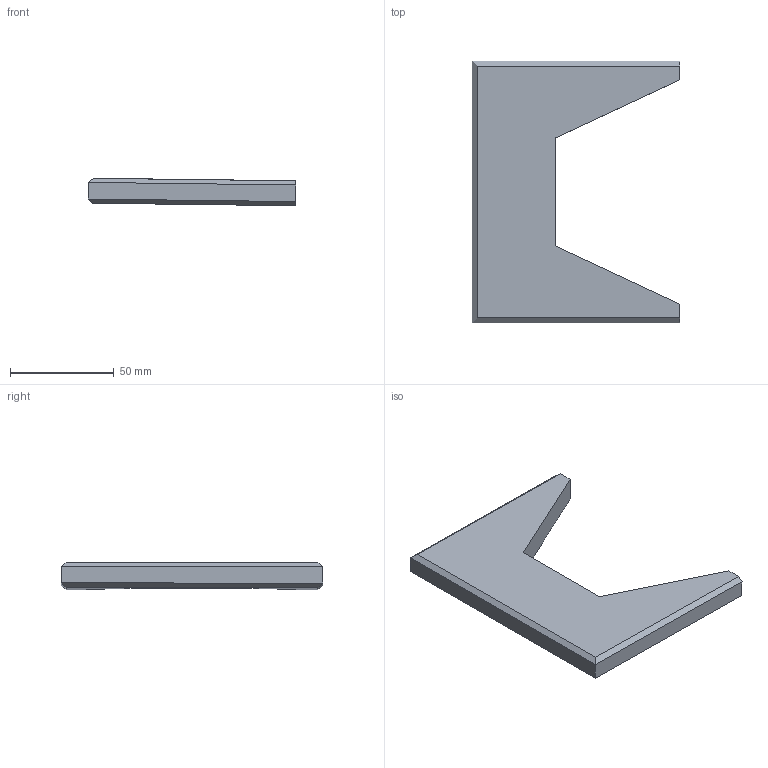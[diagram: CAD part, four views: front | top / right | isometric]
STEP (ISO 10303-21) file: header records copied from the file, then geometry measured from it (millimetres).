
FILE_DESCRIPTION (( 'STEP AP203' ), '1' );
FILE_NAME ('YYDK-500-0033-8 支架加强筋（500T）.step', '2026-03-04T03:13:14', ( 'Windows 用户' ), ( '' ), 'SwSTEP 2.0', 'SolidWorks 2020', '' );
FILE_SCHEMA (( 'CONFIG_CONTROL_DESIGN' ));
Length unit declared in the file: millimetre
Products named in the file (1): YYDK-500-0033-8 支架加强筋（500T）
Bounding box: 100.12 x 126.01 x 13.22 mm (x, y, z)
Volume: 92075.5 mm3; surface area: 21097.1 mm2
Topology: 1 solids, 1 shells, 16 faces, 38 edges, 24 vertices
Faces by surface type: plane 16
Entity records: 527 total; most frequent: CARTESIAN_POINT 79, ORIENTED_EDGE 76, DIRECTION 72, VECTOR 38, LINE 38, EDGE_CURVE 38, VERTEX_POINT 24, AXIS2_PLACEMENT_3D 17
